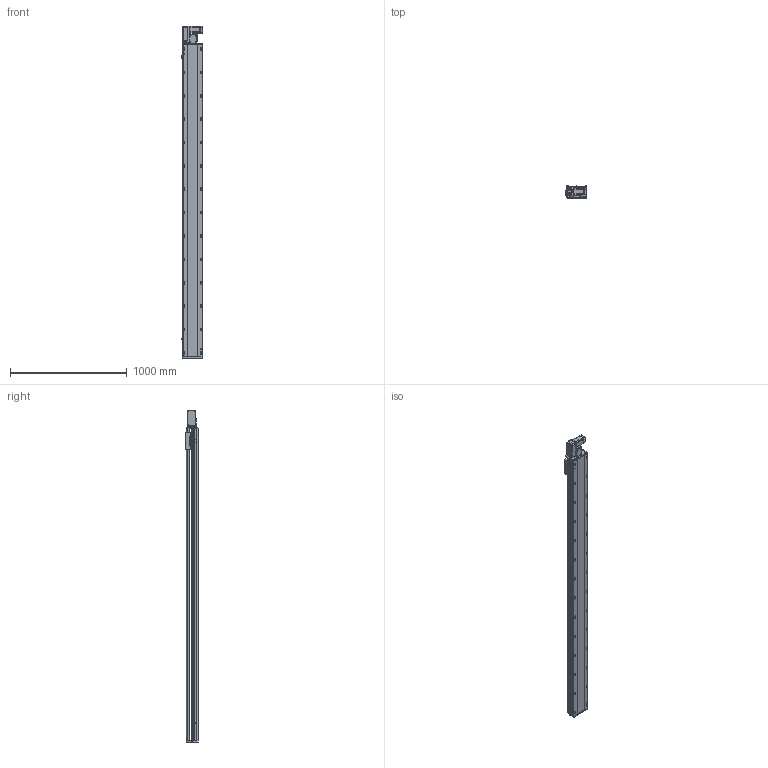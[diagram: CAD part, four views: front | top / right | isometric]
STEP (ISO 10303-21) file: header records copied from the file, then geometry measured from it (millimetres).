
FILE_DESCRIPTION (( 'STEP AP214' ), '1' );
FILE_NAME ('RTB17S-XX-2400-L-M40-C4.STEP', '2025-12-11T05:54:47', ( '' ), ( '' ), 'SwSTEP 2.0', 'SolidWorks 2018', '' );
FILE_SCHEMA (( 'AUTOMOTIVE_DESIGN' ));
Length unit declared in the file: millimetre
Products named in the file (14): OMRON EE-SX672 传感器^RTB17S-XX-XX-L-M40-C4（方程式）; RTB17S-XX-2400-L-M40-C4; RTH13-BL-012感应片外置^RTB17S-XX-XX-L-M40-C4（方程式）; RTB14-L-017P^RTB17S-L-皮带座装配-400W_RTB17S-XX-XX-L-M40-C4（方程式）; RTB17S-L-皮带座装配-400W^RTB17S-XX-XX-L-M40-C4（方程式）; RTB14-L-018P^RTB17S-L-皮带座装配-400W_RTB17S-XX-XX-L-M40-C4（方程式）; 400W伺服电机^RTB17S-XX-XX-L-M40-C4（方程式）; RTB17S-L-004丝杆螺母连接座^RTB17S-XX-XX-L-M40-C4（方程式）; RTB17S-L-001侧面板^RTB17S-XX-XX-L-M40-C4（方程式）; RMP17S-L-014-T20--皮带座^RTB17S-L-皮带座装配-400W_RTB17S-XX-XX-L-M40-C4（方程式）; RTB14-L-008-M20--电机板^RTB17S-L-皮带座装配-400W_RTB17S-XX-XX-L-M40-C4（方程式）; RTB17S-L-007上盖^RTB17S-XX-XX-L-M40-C4（方程式）; RTB14-L-005P--轴承塑胶压盖^RTB17S-L-皮带座装配-400W_RTB17S-XX-XX-L-M40-C4（方程式）; RTB17-R-011底座^RTB17S-XX-XX-L-M40-C4（方程式）
Assembly tree (16 placements, depth 3):
  RTB17S-XX-2400-L-M40-C4
    RTB17-R-011底座^RTB17S-XX-XX-L-M40-C4（方程式）
    RTB17S-L-007上盖^RTB17S-XX-XX-L-M40-C4（方程式）
    OMRON EE-SX672 传感器^RTB17S-XX-XX-L-M40-C4（方程式）  x3
    RTB17S-L-001侧面板^RTB17S-XX-XX-L-M40-C4（方程式）
    400W伺服电机^RTB17S-XX-XX-L-M40-C4（方程式）
    RTB17S-L-004丝杆螺母连接座^RTB17S-XX-XX-L-M40-C4（方程式）
    RTH13-BL-012感应片外置^RTB17S-XX-XX-L-M40-C4（方程式）
    RTB17S-L-皮带座装配-400W^RTB17S-XX-XX-L-M40-C4（方程式）
      RMP17S-L-014-T20--皮带座^RTB17S-L-皮带座装配-400W_RTB17S-XX-XX-L-M40-C4（方程式）
      RTB14-L-005P--轴承塑胶压盖^RTB17S-L-皮带座装配-400W_RTB17S-XX-XX-L-M40-C4（方程式）
      RTB14-L-008-M20--电机板^RTB17S-L-皮带座装配-400W_RTB17S-XX-XX-L-M40-C4（方程式）
      RTB14-L-017P^RTB17S-L-皮带座装配-400W_RTB17S-XX-XX-L-M40-C4（方程式）  x2
      RTB14-L-018P^RTB17S-L-皮带座装配-400W_RTB17S-XX-XX-L-M40-C4（方程式）
Bounding box: 186 x 108 x 2841 mm (x, y, z)
Volume: 23793853.5 mm3; surface area: 2742173.5 mm2
Topology: 15 solids, 15 shells, 2317 faces, 6465 edges, 4221 vertices
Faces by surface type: plane 1082, cylinder 787, bspline 301, cone 139, torus 8
Entity records: 68009 total; most frequent: CARTESIAN_POINT 19270, ORIENTED_EDGE 9774, DIRECTION 9026, EDGE_CURVE 4887, VERTEX_POINT 3209, AXIS2_PLACEMENT_3D 3139, LINE 2748, VECTOR 2748
